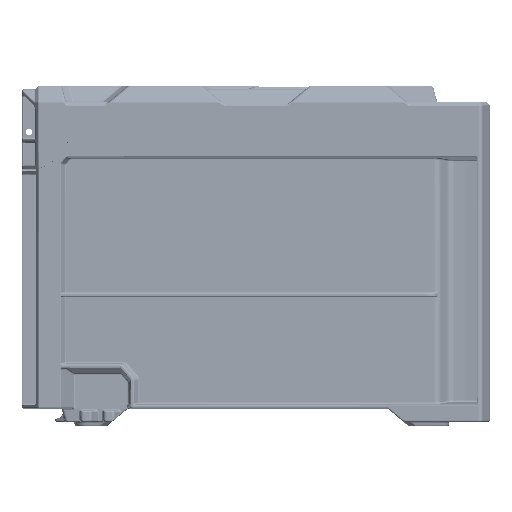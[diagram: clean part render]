
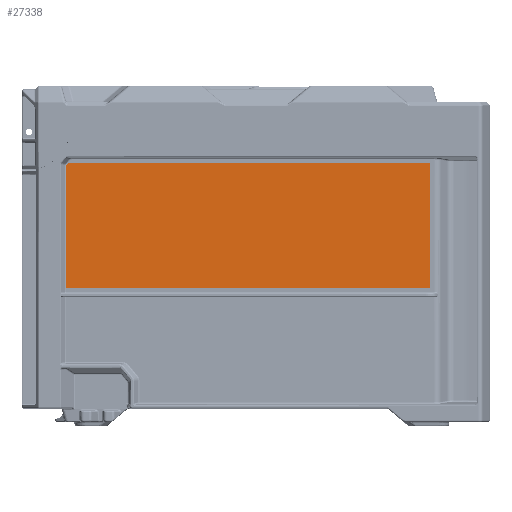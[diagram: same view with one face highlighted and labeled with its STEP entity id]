
A CAD part, left-side view. The second image highlights one B-rep face of the part: STEP entity #27338.
In plain terms, the highlighted planar face has unit normal (-1, 0, 0).
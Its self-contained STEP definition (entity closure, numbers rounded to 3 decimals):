
#7226=PLANE('',#224315);
#19983=ELLIPSE('',#224306,1.159,1.);
#27338=ADVANCED_FACE('',(#45423),#7226,.T.);
#45423=FACE_OUTER_BOUND('',#59017,.T.);
#59017=EDGE_LOOP('',(#95848,#95849,#95850,#95851,#95852,#95853,#95854,#95855));
#71418=CIRCLE('',#224313,0.5);
#71419=CIRCLE('',#224314,0.5);
#95848=ORIENTED_EDGE('',*,*,#171219,.T.);
#95849=ORIENTED_EDGE('',*,*,#171225,.T.);
#95850=ORIENTED_EDGE('',*,*,#171222,.T.);
#95851=ORIENTED_EDGE('',*,*,#171224,.F.);
#95852=ORIENTED_EDGE('',*,*,#171213,.F.);
#95853=ORIENTED_EDGE('',*,*,#171215,.F.);
#95854=ORIENTED_EDGE('',*,*,#171216,.T.);
#95855=ORIENTED_EDGE('',*,*,#171226,.T.);
#147859=VERTEX_POINT('',#354154);
#147860=VERTEX_POINT('',#354156);
#147861=VERTEX_POINT('',#354160);
#147862=VERTEX_POINT('',#354164);
#147863=VERTEX_POINT('',#354168);
#147864=VERTEX_POINT('',#354170);
#147865=VERTEX_POINT('',#354174);
#147866=VERTEX_POINT('',#354176);
#171213=EDGE_CURVE('',#147860,#147859,#19983,.T.);
#171215=EDGE_CURVE('',#147861,#147860,#197762,.T.);
#171216=EDGE_CURVE('',#147861,#147862,#197763,.T.);
#171219=EDGE_CURVE('',#147864,#147863,#197766,.T.);
#171222=EDGE_CURVE('',#147866,#147865,#197769,.T.);
#171224=EDGE_CURVE('',#147859,#147865,#197771,.T.);
#171225=EDGE_CURVE('',#147863,#147866,#71418,.T.);
#171226=EDGE_CURVE('',#147862,#147864,#71419,.T.);
#197762=LINE('',#354161,#209371);
#197763=LINE('',#354163,#209372);
#197766=LINE('',#354169,#209375);
#197769=LINE('',#354175,#209378);
#197771=LINE('',#354179,#209380);
#209371=VECTOR('',#256587,1.);
#209372=VECTOR('',#256590,1.);
#209375=VECTOR('',#256595,1.);
#209378=VECTOR('',#256600,1.);
#209380=VECTOR('',#256604,1.);
#224306=AXIS2_PLACEMENT_3D('',#354157,#256581,#256582);
#224313=AXIS2_PLACEMENT_3D('',#354181,#256607,#256608);
#224314=AXIS2_PLACEMENT_3D('',#354182,#256609,#256610);
#224315=AXIS2_PLACEMENT_3D('',#354183,#256611,#256612);
#256581=DIRECTION('',(1.,0.,0.));
#256582=DIRECTION('',(0.,0.986,0.165));
#256587=DIRECTION('',(0.,0.,1.));
#256590=DIRECTION('',(0.,-1.,0.));
#256595=DIRECTION('',(0.,0.,1.));
#256600=DIRECTION('',(0.,1.,0.));
#256604=DIRECTION('',(0.,-0.64,0.768));
#256607=DIRECTION('',(-1.,0.,0.));
#256608=DIRECTION('',(0.,0.,-1.));
#256609=DIRECTION('',(-1.,0.,0.));
#256610=DIRECTION('',(0.,0.,-1.));
#256611=DIRECTION('',(-1.,0.,0.));
#256612=DIRECTION('',(0.,0.,-1.));
#354154=CARTESIAN_POINT('',(-192.4,-28.301,-14.563));
#354156=CARTESIAN_POINT('',(-192.4,-28.093,-15.13));
#354157=CARTESIAN_POINT('',(-192.4,-29.247,-15.178));
#354160=CARTESIAN_POINT('',(-192.4,-28.093,-92.75));
#354161=CARTESIAN_POINT('',(-192.4,-28.093,0.));
#354163=CARTESIAN_POINT('',(-192.4,0.,-92.75));
#354164=CARTESIAN_POINT('',(-192.4,-257.593,-92.75));
#354168=CARTESIAN_POINT('',(-192.4,-258.093,-14.25));
#354169=CARTESIAN_POINT('',(-192.4,-258.093,0.));
#354170=CARTESIAN_POINT('',(-192.4,-258.093,-92.25));
#354174=CARTESIAN_POINT('',(-192.4,-28.979,-13.75));
#354175=CARTESIAN_POINT('',(-192.4,0.,-13.75));
#354176=CARTESIAN_POINT('',(-192.4,-257.593,-13.75));
#354179=CARTESIAN_POINT('',(-192.4,-23.857,-19.893));
#354181=CARTESIAN_POINT('',(-192.4,-257.593,-14.25));
#354182=CARTESIAN_POINT('',(-192.4,-257.593,-92.25));
#354183=CARTESIAN_POINT('',(-192.4,0.,0.));
